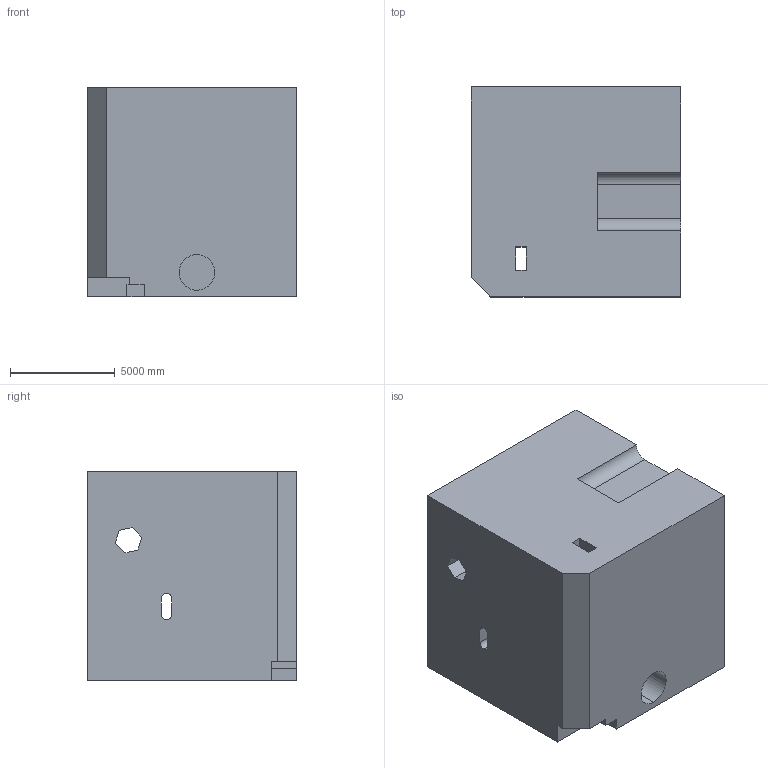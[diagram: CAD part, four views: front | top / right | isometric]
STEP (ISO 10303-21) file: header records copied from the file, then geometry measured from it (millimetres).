
FILE_DESCRIPTION (( 'STEP AP203' ), '1' );
FILE_NAME ('188.STEP', '2022-09-06T15:26:29', ( 'user' ), ( '' ), 'SwSTEP 2.0', 'SolidWorks 2021', '' );
FILE_SCHEMA (( 'CONFIG_CONTROL_DESIGN' ));
Length unit declared in the file: centimetre
Products named in the file (1): 188
Bounding box: 10000 x 10000 x 10000 mm (x, y, z)
Volume: 952479237038.2 mm3; surface area: 724831862.7 mm2
Topology: 1 solids, 1 shells, 41 faces, 111 edges, 74 vertices
Faces by surface type: plane 34, cylinder 7
Entity records: 1368 total; most frequent: CARTESIAN_POINT 227, ORIENTED_EDGE 222, DIRECTION 209, EDGE_CURVE 111, LINE 97, VECTOR 97, VERTEX_POINT 74, AXIS2_PLACEMENT_3D 56
